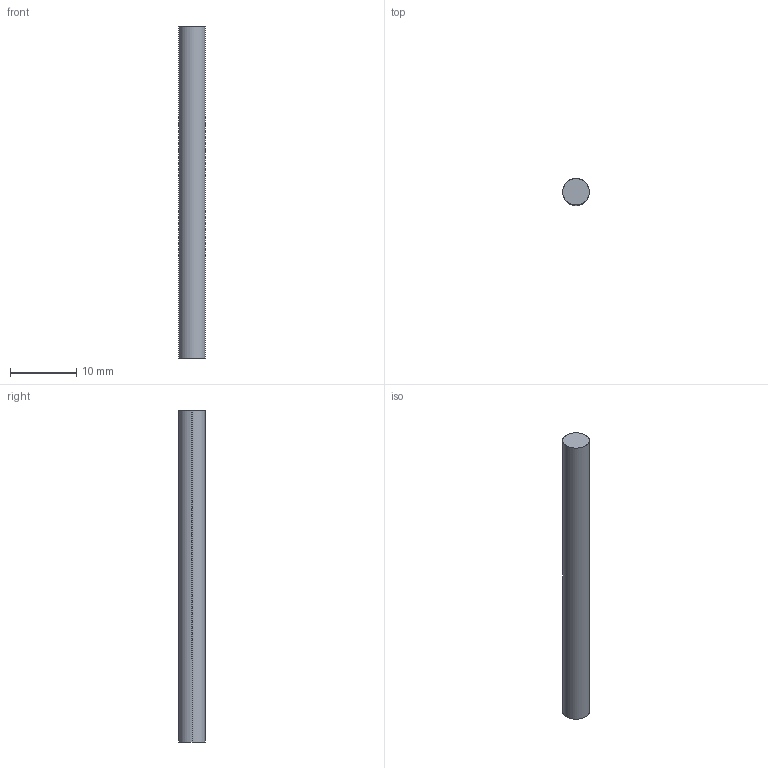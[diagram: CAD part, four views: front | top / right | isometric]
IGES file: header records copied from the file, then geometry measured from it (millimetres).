
Start section: SolidWorks IGES file using analytic representation for surfaces
Global section: file name: Z:\Mes documents\ATAO iges\Gamme CC\CC 422\422.040.00.IGS; native system: SolidWorks 2008; preprocessor: SolidWorks 2008; author: cbrechard; date: 110628.162643; units: millimetre
Bounding box: 4 x 4 x 50 mm (x, y, z)
Surface area: 653.5 mm2 (no closed solid volume)
Topology: 0 solids, 0 shells, 4 faces, 72 edges, 72 vertices
Faces by surface type: revolution 2, bspline 2
